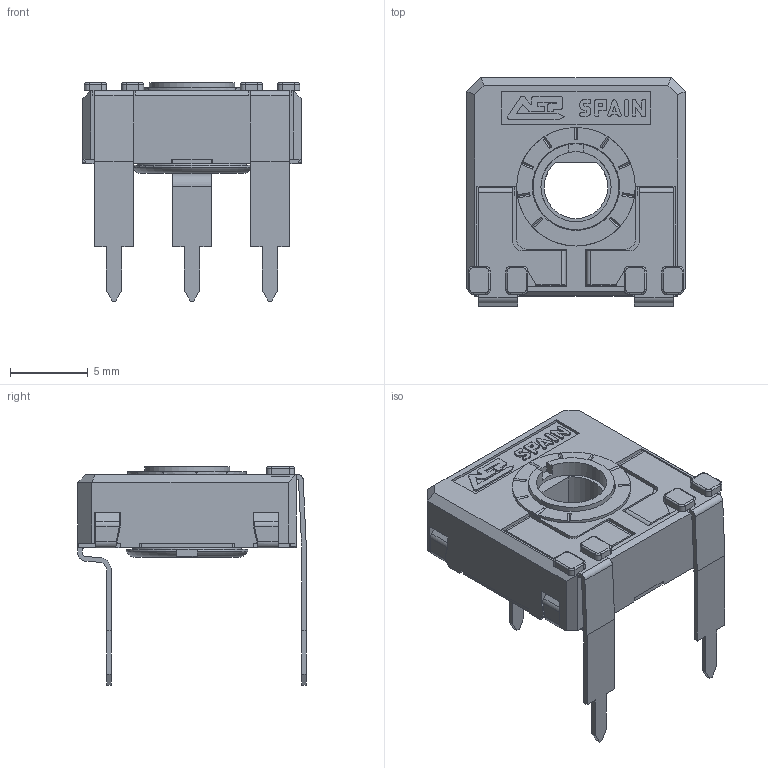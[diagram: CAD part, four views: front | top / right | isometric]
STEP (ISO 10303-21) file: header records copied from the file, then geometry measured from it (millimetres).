
FILE_DESCRIPTION(/* description */ (''),/* implementation_level */ '2;1');
FILE_NAME(/* name */ 'COMCA14DVL12,5.stp',/* time_stamp */ '2026-04-01T16:26:38+02:00',/* author */ ('CEM'),/* organization */ (''),/* preprocessor_version */ 'ST-DEVELOPER v20.1',/* originating_system */ 'Autodesk Inventor 2026',/* authorisation */ '');
FILE_SCHEMA (('AUTOMOTIVE_DESIGN { 1 0 10303 214 3 1 1 }'));
Length unit declared in the file: millimetre
Products named in the file (1): CARCASA CA14 PGA
Bounding box: 14 x 14.65 x 14 mm (x, y, z)
Volume: 540.2 mm3; surface area: 1547.8 mm2
Topology: 1 solids, 1 shells, 680 faces, 1919 edges, 1235 vertices
Faces by surface type: plane 501, cylinder 142, torus 23, bspline 8, cone 6
Full cylindrical faces by diameter (mm): 4.5 x1, 5.5 x1, 5.6 x1, 5.752 x1, 6.8 x1, 7.6 x1
Entity records: 22204 total; most frequent: CARTESIAN_POINT 4132, ORIENTED_EDGE 3838, DIRECTION 3583, EDGE_CURVE 1919, LINE 1511, VECTOR 1511, VERTEX_POINT 1235, AXIS2_PLACEMENT_3D 1036
